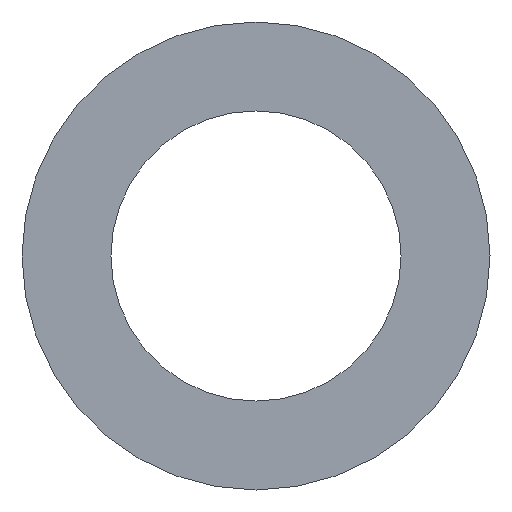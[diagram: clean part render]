
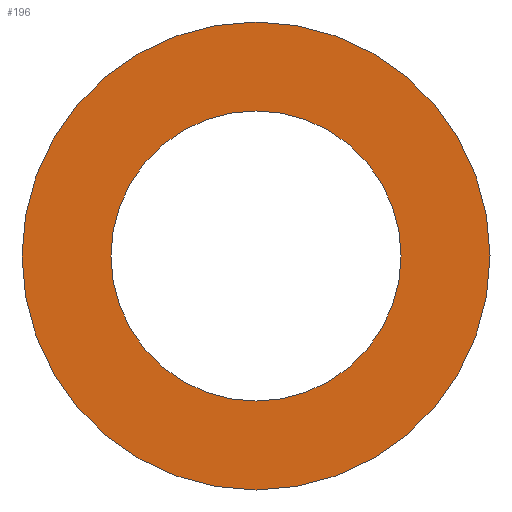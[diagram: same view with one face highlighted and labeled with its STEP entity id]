
A CAD part, left-side view. The second image highlights one B-rep face of the part: STEP entity #196.
In plain terms, the highlighted planar face has unit normal (-1, 0, 0).
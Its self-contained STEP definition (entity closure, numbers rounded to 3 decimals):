
#1 = ORIENTED_EDGE ( 'NONE', *, *, #104, .T. ) ;
#4 = VERTEX_POINT ( 'NONE', #46 ) ;
#10 = AXIS2_PLACEMENT_3D ( 'NONE', #248, #135, #244 ) ;
#11 = PLANE ( 'NONE',  #242 ) ;
#13 = VERTEX_POINT ( 'NONE', #143 ) ;
#22 = CARTESIAN_POINT ( 'NONE',  ( -47.4, 15.75, -30.5 ) ) ;
#32 = FACE_OUTER_BOUND ( 'NONE', #157, .T. ) ;
#46 = CARTESIAN_POINT ( 'NONE',  ( -47.4, 15.75, -27.4 ) ) ;
#47 = AXIS2_PLACEMENT_3D ( 'NONE', #81, #223, #86 ) ;
#51 = CIRCLE ( 'NONE', #152, 5. ) ;
#53 = EDGE_CURVE ( 'NONE', #13, #239, #74, .T. ) ;
#54 = DIRECTION ( 'NONE',  ( 0., 0., 1. ) ) ;
#74 = CIRCLE ( 'NONE', #99, 5. ) ;
#80 = EDGE_CURVE ( 'NONE', #239, #13, #51, .T. ) ;
#81 = CARTESIAN_POINT ( 'NONE',  ( -47.4, 15.75, -30.5 ) ) ;
#86 = DIRECTION ( 'NONE',  ( 0., 0., 1. ) ) ;
#88 = DIRECTION ( 'NONE',  ( 0., 0., 1. ) ) ;
#93 = CIRCLE ( 'NONE', #10, 3.1 ) ;
#99 = AXIS2_PLACEMENT_3D ( 'NONE', #181, #102, #88 ) ;
#102 = DIRECTION ( 'NONE',  ( -1., 0., 0. ) ) ;
#104 = EDGE_CURVE ( 'NONE', #4, #237, #146, .T. ) ;
#106 = DIRECTION ( 'NONE',  ( -1., 0., 0. ) ) ;
#115 = FACE_BOUND ( 'NONE', #174, .T. ) ;
#116 = CARTESIAN_POINT ( 'NONE',  ( -47.4, 15.75, -35.5 ) ) ;
#118 = ORIENTED_EDGE ( 'NONE', *, *, #53, .T. ) ;
#135 = DIRECTION ( 'NONE',  ( 1., 0., 0. ) ) ;
#136 = ORIENTED_EDGE ( 'NONE', *, *, #163, .T. ) ;
#143 = CARTESIAN_POINT ( 'NONE',  ( -47.4, 15.75, -25.5 ) ) ;
#146 = CIRCLE ( 'NONE', #47, 3.1 ) ;
#152 = AXIS2_PLACEMENT_3D ( 'NONE', #22, #106, #240 ) ;
#157 = EDGE_LOOP ( 'NONE', ( #207, #118 ) ) ;
#163 = EDGE_CURVE ( 'NONE', #237, #4, #93, .T. ) ;
#174 = EDGE_LOOP ( 'NONE', ( #136, #1 ) ) ;
#181 = CARTESIAN_POINT ( 'NONE',  ( -47.4, 15.75, -30.5 ) ) ;
#196 = ADVANCED_FACE ( 'NONE', ( #32, #115 ), #11, .T. ) ;
#207 = ORIENTED_EDGE ( 'NONE', *, *, #80, .T. ) ;
#208 = DIRECTION ( 'NONE',  ( -1., 0., 0. ) ) ;
#219 = CARTESIAN_POINT ( 'NONE',  ( -47.4, 15.75, -33.6 ) ) ;
#223 = DIRECTION ( 'NONE',  ( 1., 0., 0. ) ) ;
#226 = CARTESIAN_POINT ( 'NONE',  ( -47.4, 15.75, -30.5 ) ) ;
#237 = VERTEX_POINT ( 'NONE', #219 ) ;
#239 = VERTEX_POINT ( 'NONE', #116 ) ;
#240 = DIRECTION ( 'NONE',  ( 0., 0., 1. ) ) ;
#242 = AXIS2_PLACEMENT_3D ( 'NONE', #226, #208, #54 ) ;
#244 = DIRECTION ( 'NONE',  ( 0., 0., 1. ) ) ;
#248 = CARTESIAN_POINT ( 'NONE',  ( -47.4, 15.75, -30.5 ) ) ;
